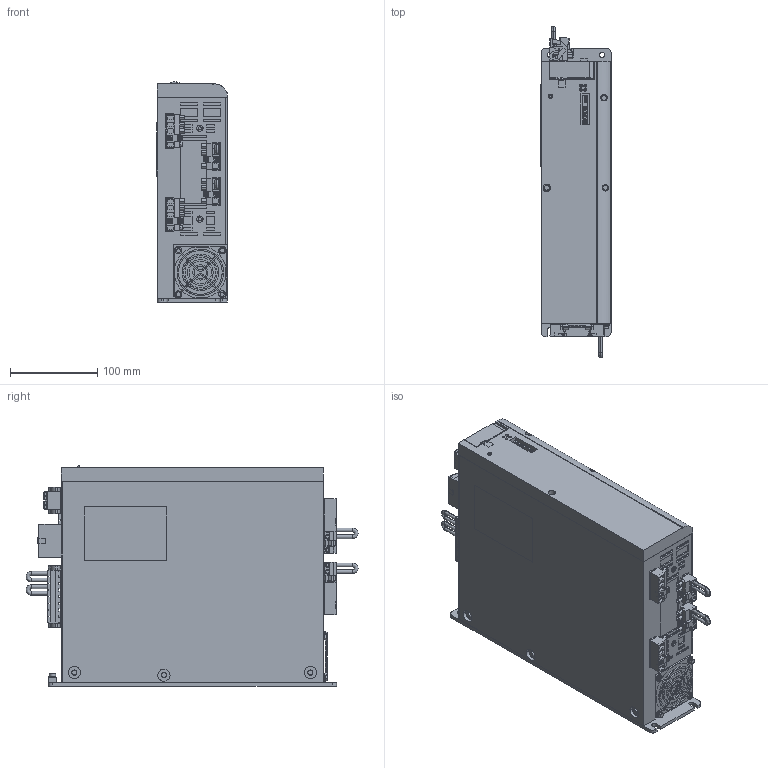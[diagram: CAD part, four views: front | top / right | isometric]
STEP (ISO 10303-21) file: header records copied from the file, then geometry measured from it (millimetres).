
FILE_DESCRIPTION (( 'STEP AP203' ), '1' );
FILE_NAME ('sgd7w_2r6da0b.STEP', '2016-11-07T01:05:46', ( '' ), ( '' ), 'SwSTEP 2.0', 'SolidWorks 2014', '' );
FILE_SCHEMA (( 'CONFIG_CONTROL_DESIGN' ));
Length unit declared in the file: millimetre
Products named in the file (11): sgd7w_2r6da0b_connector4; sgd7w_2r6da0b_connector5; sgd7w_2r6da0b_connector6; sgd7w_2r6da0b_jumper1; sgd7w_2r6da0b_base; sgd7w_2r6da0b_jumper2; sgd7w_2r6da0b_cover; sgd7w_2r6da0b; sgd7w_2r6da0b_connector1; sgd7w_2r6da0b_connector2; sgd7w_2r6da0b_connector3
Assembly tree (15 placements, depth 2):
  sgd7w_2r6da0b
    sgd7w_2r6da0b_base
    sgd7w_2r6da0b_cover
    sgd7w_2r6da0b_connector1  x2
    sgd7w_2r6da0b_connector2
    sgd7w_2r6da0b_connector3  x2
    sgd7w_2r6da0b_connector4
    sgd7w_2r6da0b_connector5  x2
    sgd7w_2r6da0b_connector6
    sgd7w_2r6da0b_jumper1  x2
    sgd7w_2r6da0b_jumper2  x2
Bounding box: 80.1 x 379.83 x 252 mm (x, y, z)
Volume: 5992671.5 mm3; surface area: 348447.3 mm2
Topology: 15 solids, 20 shells, 4639 faces, 12202 edges, 8038 vertices
Faces by surface type: plane 3811, cylinder 749, cone 54, bspline 25
Entity records: 130449 total; most frequent: CARTESIAN_POINT 23703, ORIENTED_EDGE 22164, DIRECTION 20795, EDGE_CURVE 11082, LINE 9613, VECTOR 9613, VERTEX_POINT 7306, AXIS2_PLACEMENT_3D 5591
